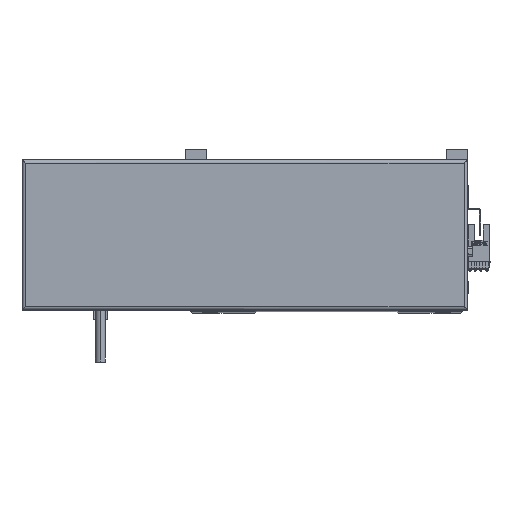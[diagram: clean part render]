
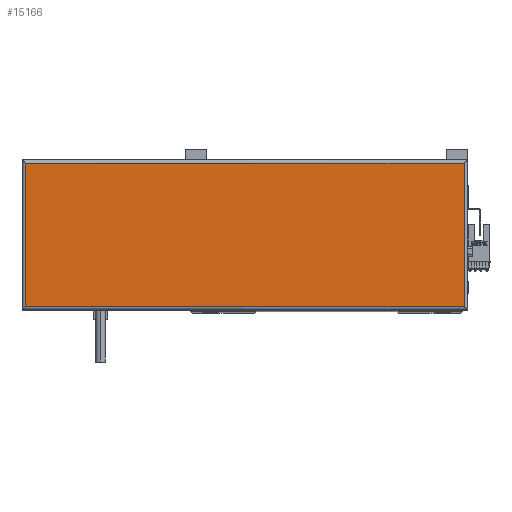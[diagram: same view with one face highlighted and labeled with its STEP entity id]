
A CAD part, top view. The second image highlights one B-rep face of the part: STEP entity #15166.
In plain terms, the highlighted planar face has unit normal (0, 0, 1).
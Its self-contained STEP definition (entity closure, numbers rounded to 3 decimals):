
#988 = EDGE_CURVE ( 'NONE', #15440, #18737, #9887, .T. ) ;
#1661 = LINE ( 'NONE', #16159, #45767 ) ;
#1696 = VECTOR ( 'NONE', #14185, 1000. ) ;
#1855 = CARTESIAN_POINT ( 'NONE',  ( 133.5, 45., 44.8 ) ) ;
#2411 = VECTOR ( 'NONE', #8437, 1000. ) ;
#2966 = CARTESIAN_POINT ( 'NONE',  ( 265., 88., 44.8 ) ) ;
#4883 = CARTESIAN_POINT ( 'NONE',  ( 265., 90., 44.8 ) ) ;
#7717 = CARTESIAN_POINT ( 'NONE',  ( 265., 2., 44.8 ) ) ;
#8437 = DIRECTION ( 'NONE',  ( -1., 0., 0. ) ) ;
#8781 = DIRECTION ( 'NONE',  ( 0., -1., 0. ) ) ;
#9213 = ORIENTED_EDGE ( 'NONE', *, *, #44714, .T. ) ;
#9887 = LINE ( 'NONE', #4883, #13900 ) ;
#13197 = EDGE_LOOP ( 'NONE', ( #36587, #9213, #24263, #15057 ) ) ;
#13900 = VECTOR ( 'NONE', #45902, 1000. ) ;
#14185 = DIRECTION ( 'NONE',  ( 1., 0., 0. ) ) ;
#15057 = ORIENTED_EDGE ( 'NONE', *, *, #37946, .T. ) ;
#15166 = ADVANCED_FACE ( 'NONE', ( #18215 ), #16763, .T. ) ;
#15440 = VERTEX_POINT ( 'NONE', #7717 ) ;
#16159 = CARTESIAN_POINT ( 'NONE',  ( 2., 0., 44.8 ) ) ;
#16763 = PLANE ( 'NONE',  #17241 ) ;
#17241 = AXIS2_PLACEMENT_3D ( 'NONE', #1855, #41798, #27202 ) ;
#18215 = FACE_OUTER_BOUND ( 'NONE', #13197, .T. ) ;
#18737 = VERTEX_POINT ( 'NONE', #2966 ) ;
#18801 = VERTEX_POINT ( 'NONE', #32928 ) ;
#24263 = ORIENTED_EDGE ( 'NONE', *, *, #37268, .T. ) ;
#26710 = CARTESIAN_POINT ( 'NONE',  ( 0., 88., 44.8 ) ) ;
#27202 = DIRECTION ( 'NONE',  ( 1., 0., 0. ) ) ;
#28907 = CARTESIAN_POINT ( 'NONE',  ( 267., 2., 44.8 ) ) ;
#29989 = VERTEX_POINT ( 'NONE', #31264 ) ;
#31264 = CARTESIAN_POINT ( 'NONE',  ( 2., 2., 44.8 ) ) ;
#32928 = CARTESIAN_POINT ( 'NONE',  ( 2., 88., 44.8 ) ) ;
#36587 = ORIENTED_EDGE ( 'NONE', *, *, #988, .T. ) ;
#37268 = EDGE_CURVE ( 'NONE', #18801, #29989, #1661, .T. ) ;
#37946 = EDGE_CURVE ( 'NONE', #29989, #15440, #42426, .T. ) ;
#41798 = DIRECTION ( 'NONE',  ( 0., 0., 1. ) ) ;
#42426 = LINE ( 'NONE', #28907, #1696 ) ;
#44267 = LINE ( 'NONE', #26710, #2411 ) ;
#44714 = EDGE_CURVE ( 'NONE', #18737, #18801, #44267, .T. ) ;
#45767 = VECTOR ( 'NONE', #8781, 1000. ) ;
#45902 = DIRECTION ( 'NONE',  ( 0., 1., 0. ) ) ;
